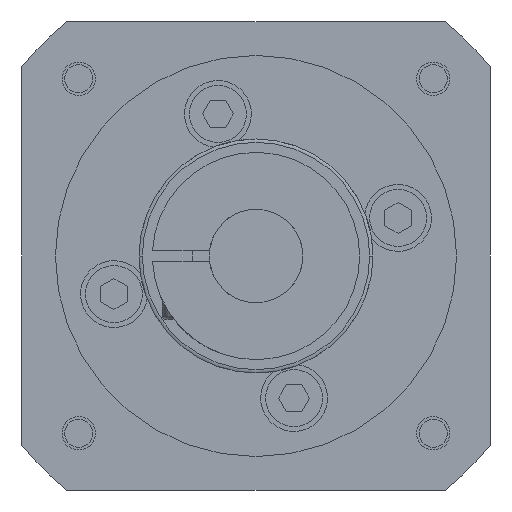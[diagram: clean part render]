
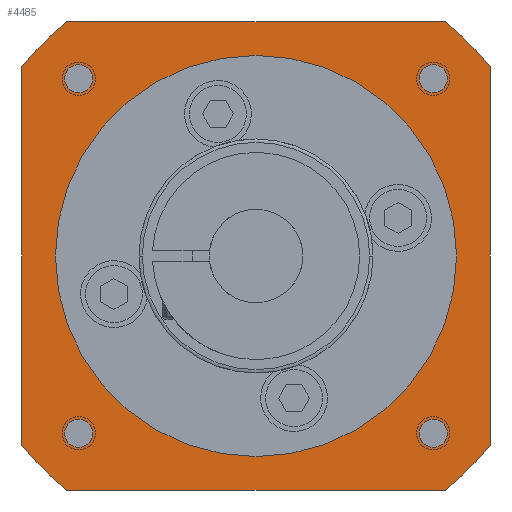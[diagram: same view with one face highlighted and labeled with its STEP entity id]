
A CAD part, left-side view. The second image highlights one B-rep face of the part: STEP entity #4485.
In plain terms, the highlighted planar face has unit normal (-1, 0, 0).
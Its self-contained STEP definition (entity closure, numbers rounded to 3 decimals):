
#991=CARTESIAN_POINT('',(0.,0.,0.));
#992=DIRECTION('',(-1.,0.,0.));
#993=DIRECTION('',(0.,-0.778,0.629));
#994=AXIS2_PLACEMENT_3D('',#991,#992,#993);
#996=DIRECTION('',(0.,0.,1.));
#997=VECTOR('',#996,56.569);
#998=CARTESIAN_POINT('',(0.,-35.,-28.284));
#999=LINE('',#998,#997);
#1000=CARTESIAN_POINT('',(0.,0.,0.));
#1001=DIRECTION('',(-1.,0.,0.));
#1002=DIRECTION('',(0.,-0.629,-0.778));
#1003=AXIS2_PLACEMENT_3D('',#1000,#1001,#1002);
#1005=DIRECTION('',(0.,-1.,0.));
#1006=VECTOR('',#1005,56.569);
#1007=CARTESIAN_POINT('',(0.,28.284,-35.));
#1008=LINE('',#1007,#1006);
#1009=CARTESIAN_POINT('',(0.,0.,0.));
#1010=DIRECTION('',(-1.,0.,0.));
#1011=DIRECTION('',(0.,0.778,-0.629));
#1012=AXIS2_PLACEMENT_3D('',#1009,#1010,#1011);
#1014=DIRECTION('',(0.,0.,-1.));
#1015=VECTOR('',#1014,56.569);
#1016=CARTESIAN_POINT('',(0.,35.,28.284));
#1017=LINE('',#1016,#1015);
#1018=CARTESIAN_POINT('',(0.,0.,0.));
#1019=DIRECTION('',(-1.,0.,0.));
#1020=DIRECTION('',(0.,0.629,0.778));
#1021=AXIS2_PLACEMENT_3D('',#1018,#1019,#1020);
#1023=DIRECTION('',(0.,1.,0.));
#1024=VECTOR('',#1023,56.569);
#1025=CARTESIAN_POINT('',(0.,-28.284,35.));
#1026=LINE('',#1025,#1024);
#1027=CARTESIAN_POINT('',(0.,0.,0.));
#1028=DIRECTION('',(1.,0.,0.));
#1029=DIRECTION('',(0.,-1.,0.));
#1030=AXIS2_PLACEMENT_3D('',#1027,#1028,#1029);
#1032=CARTESIAN_POINT('',(0.,0.,0.));
#1033=DIRECTION('',(1.,0.,0.));
#1034=DIRECTION('',(0.,1.,0.));
#1035=AXIS2_PLACEMENT_3D('',#1032,#1033,#1034);
#1037=CARTESIAN_POINT('',(0.,-26.517,26.517));
#1038=DIRECTION('',(-1.,0.,0.));
#1039=DIRECTION('',(0.,0.,-1.));
#1040=AXIS2_PLACEMENT_3D('',#1037,#1038,#1039);
#1042=CARTESIAN_POINT('',(0.,-26.517,26.517));
#1043=DIRECTION('',(-1.,0.,0.));
#1044=DIRECTION('',(0.,0.,1.));
#1045=AXIS2_PLACEMENT_3D('',#1042,#1043,#1044);
#1047=CARTESIAN_POINT('',(0.,-26.517,-26.517));
#1048=DIRECTION('',(-1.,0.,0.));
#1049=DIRECTION('',(0.,0.,-1.));
#1050=AXIS2_PLACEMENT_3D('',#1047,#1048,#1049);
#1052=CARTESIAN_POINT('',(0.,-26.517,-26.517));
#1053=DIRECTION('',(-1.,0.,0.));
#1054=DIRECTION('',(0.,0.,1.));
#1055=AXIS2_PLACEMENT_3D('',#1052,#1053,#1054);
#1057=CARTESIAN_POINT('',(0.,26.517,-26.517));
#1058=DIRECTION('',(-1.,0.,0.));
#1059=DIRECTION('',(0.,0.,-1.));
#1060=AXIS2_PLACEMENT_3D('',#1057,#1058,#1059);
#1062=CARTESIAN_POINT('',(0.,26.517,-26.517));
#1063=DIRECTION('',(-1.,0.,0.));
#1064=DIRECTION('',(0.,0.,1.));
#1065=AXIS2_PLACEMENT_3D('',#1062,#1063,#1064);
#1067=CARTESIAN_POINT('',(0.,26.517,26.517));
#1068=DIRECTION('',(-1.,0.,0.));
#1069=DIRECTION('',(0.,0.,-1.));
#1070=AXIS2_PLACEMENT_3D('',#1067,#1068,#1069);
#1072=CARTESIAN_POINT('',(0.,26.517,26.517));
#1073=DIRECTION('',(-1.,0.,0.));
#1074=DIRECTION('',(0.,0.,1.));
#1075=AXIS2_PLACEMENT_3D('',#1072,#1073,#1074);
#2400=CARTESIAN_POINT('',(0.,-35.,28.284));
#2401=CARTESIAN_POINT('',(0.,-28.284,35.));
#2402=VERTEX_POINT('',#2400);
#2403=VERTEX_POINT('',#2401);
#2404=CARTESIAN_POINT('',(0.,28.284,35.));
#2405=VERTEX_POINT('',#2404);
#2406=CARTESIAN_POINT('',(0.,35.,28.284));
#2407=VERTEX_POINT('',#2406);
#2408=CARTESIAN_POINT('',(0.,35.,-28.284));
#2409=VERTEX_POINT('',#2408);
#2410=CARTESIAN_POINT('',(0.,28.284,-35.));
#2411=VERTEX_POINT('',#2410);
#2412=CARTESIAN_POINT('',(0.,-28.284,-35.));
#2413=VERTEX_POINT('',#2412);
#2414=CARTESIAN_POINT('',(0.,-35.,-28.284));
#2415=VERTEX_POINT('',#2414);
#2416=CARTESIAN_POINT('',(0.,-30.,0.));
#2417=CARTESIAN_POINT('',(0.,30.,0.));
#2418=VERTEX_POINT('',#2416);
#2419=VERTEX_POINT('',#2417);
#2472=CARTESIAN_POINT('',(0.,-26.517,24.417));
#2473=CARTESIAN_POINT('',(0.,-26.517,28.617));
#2474=VERTEX_POINT('',#2472);
#2475=VERTEX_POINT('',#2473);
#2476=CARTESIAN_POINT('',(0.,-26.517,-28.617));
#2477=CARTESIAN_POINT('',(0.,-26.517,-24.417));
#2478=VERTEX_POINT('',#2476);
#2479=VERTEX_POINT('',#2477);
#2480=CARTESIAN_POINT('',(0.,26.517,-28.617));
#2481=CARTESIAN_POINT('',(0.,26.517,-24.417));
#2482=VERTEX_POINT('',#2480);
#2483=VERTEX_POINT('',#2481);
#2484=CARTESIAN_POINT('',(0.,26.517,24.417));
#2485=CARTESIAN_POINT('',(0.,26.517,28.617));
#2486=VERTEX_POINT('',#2484);
#2487=VERTEX_POINT('',#2485);
#4440=CARTESIAN_POINT('',(0.,0.,0.));
#4441=DIRECTION('',(-1.,0.,0.));
#4442=DIRECTION('',(0.,0.,-1.));
#4443=AXIS2_PLACEMENT_3D('',#4440,#4441,#4442);
#4444=PLANE('',#4443);
#4445=ORIENTED_EDGE('',*,*,#4434,.F.);
#4446=ORIENTED_EDGE('',*,*,#4097,.F.);
#4447=ORIENTED_EDGE('',*,*,#4113,.F.);
#4448=ORIENTED_EDGE('',*,*,#4153,.F.);
#4449=ORIENTED_EDGE('',*,*,#4379,.F.);
#4450=ORIENTED_EDGE('',*,*,#4393,.F.);
#4451=ORIENTED_EDGE('',*,*,#4407,.F.);
#4452=ORIENTED_EDGE('',*,*,#4421,.F.);
#4453=EDGE_LOOP('',(#4445,#4446,#4447,#4448,#4449,#4450,#4451,#4452));
#4454=FACE_OUTER_BOUND('',#4453,.F.);
#4456=ORIENTED_EDGE('',*,*,#4455,.F.);
#4458=ORIENTED_EDGE('',*,*,#4457,.F.);
#4459=EDGE_LOOP('',(#4456,#4458));
#4460=FACE_BOUND('',#4459,.F.);
#4462=ORIENTED_EDGE('',*,*,#4461,.T.);
#4464=ORIENTED_EDGE('',*,*,#4463,.T.);
#4465=EDGE_LOOP('',(#4462,#4464));
#4466=FACE_BOUND('',#4465,.F.);
#4468=ORIENTED_EDGE('',*,*,#4467,.T.);
#4470=ORIENTED_EDGE('',*,*,#4469,.T.);
#4471=EDGE_LOOP('',(#4468,#4470));
#4472=FACE_BOUND('',#4471,.F.);
#4474=ORIENTED_EDGE('',*,*,#4473,.T.);
#4476=ORIENTED_EDGE('',*,*,#4475,.T.);
#4477=EDGE_LOOP('',(#4474,#4476));
#4478=FACE_BOUND('',#4477,.F.);
#4480=ORIENTED_EDGE('',*,*,#4479,.T.);
#4482=ORIENTED_EDGE('',*,*,#4481,.T.);
#4483=EDGE_LOOP('',(#4480,#4482));
#4484=FACE_BOUND('',#4483,.F.);
#995=CIRCLE('',#994,45.);
#1004=CIRCLE('',#1003,45.);
#1013=CIRCLE('',#1012,45.);
#1022=CIRCLE('',#1021,45.);
#1031=CIRCLE('',#1030,30.);
#1036=CIRCLE('',#1035,30.);
#1041=CIRCLE('',#1040,2.1);
#1046=CIRCLE('',#1045,2.1);
#1051=CIRCLE('',#1050,2.1);
#1056=CIRCLE('',#1055,2.1);
#1061=CIRCLE('',#1060,2.1);
#1066=CIRCLE('',#1065,2.1);
#1071=CIRCLE('',#1070,2.1);
#1076=CIRCLE('',#1075,2.1);
#4097=EDGE_CURVE('',#2415,#2402,#999,.T.);
#4113=EDGE_CURVE('',#2413,#2415,#1004,.T.);
#4153=EDGE_CURVE('',#2411,#2413,#1008,.T.);
#4379=EDGE_CURVE('',#2409,#2411,#1013,.T.);
#4393=EDGE_CURVE('',#2407,#2409,#1017,.T.);
#4407=EDGE_CURVE('',#2405,#2407,#1022,.T.);
#4421=EDGE_CURVE('',#2403,#2405,#1026,.T.);
#4434=EDGE_CURVE('',#2402,#2403,#995,.T.);
#4455=EDGE_CURVE('',#2418,#2419,#1031,.T.);
#4457=EDGE_CURVE('',#2419,#2418,#1036,.T.);
#4461=EDGE_CURVE('',#2474,#2475,#1041,.T.);
#4463=EDGE_CURVE('',#2475,#2474,#1046,.T.);
#4467=EDGE_CURVE('',#2478,#2479,#1051,.T.);
#4469=EDGE_CURVE('',#2479,#2478,#1056,.T.);
#4473=EDGE_CURVE('',#2482,#2483,#1061,.T.);
#4475=EDGE_CURVE('',#2483,#2482,#1066,.T.);
#4479=EDGE_CURVE('',#2486,#2487,#1071,.T.);
#4481=EDGE_CURVE('',#2487,#2486,#1076,.T.);
#4485=ADVANCED_FACE('',(#4454,#4460,#4466,#4472,#4478,#4484),#4444,.T.);
